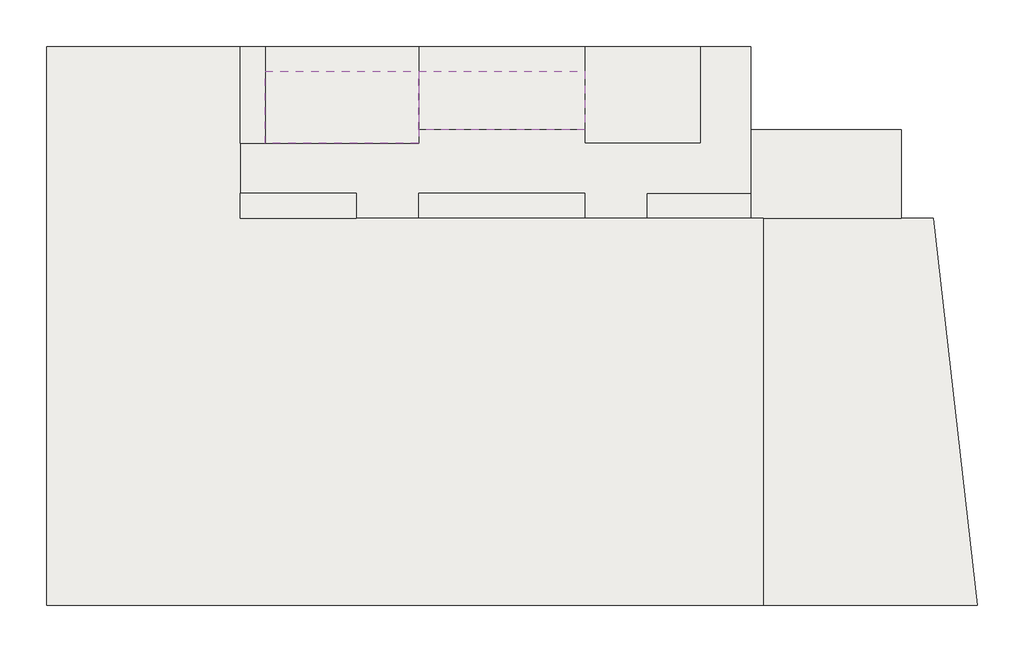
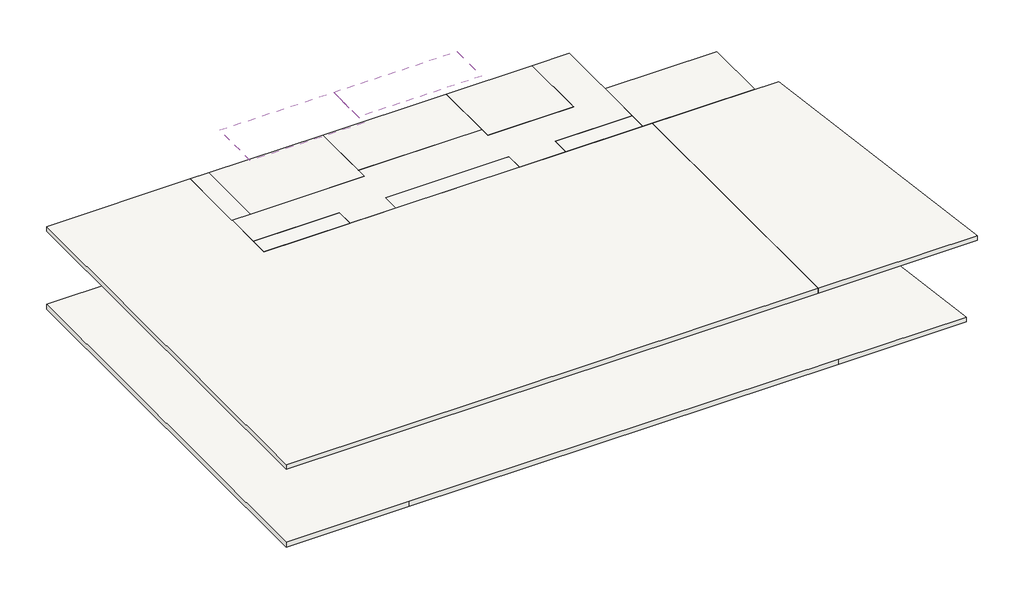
# One storey: 14 roofs.
"""IFC4 building model written with IfcOpenShell, lengths in millimetres."""

from ifc_helpers import new_model, si_unit, frame, origin, place, context, project, spatial, polyline, outline, extrude, element, save

model = new_model("IFC4")

# Units and contexts
model_context = context("Model", 3, world=origin())
ifc_project = project(units=[si_unit("LENGTHUNIT", "METRE", prefix="MILLI")], contexts=[model_context])

# Site, building, storey
site = spatial("IfcSite", under=ifc_project)
building = spatial("IfcBuilding", under=site)
storey = spatial("IfcBuildingStorey", under=building, Name="パラペット天端", Elevation=33200.0)

# Roofs
placement = place(None, origin())
element("IfcRoof", 1, ObjectType="250", at=placement, inside=storey, context=model_context, shape_type="SweptSolid", body=[
    extrude(outline(polyline([(-28845.9784025, 16649.6868987), (-21845.9784025, 16649.6868987), (-21845.9784025, 10449.6868987), (-2945.9784025, 10449.6868987), (-2945.9784025, -3550.3131013), (-28845.9784025, -3550.3131013), (-28845.9784025, 16649.6868987)])), frame((0.0, 0.0, 32350.0), z_axis=(0.0, 0.0, 1.0), x_axis=(1.0, 0.0, 0.0)), (0.0, 0.0, 1.0), 250.0),
])
element("IfcRoof", 2, ObjectType="250", at=placement, inside=storey, context=model_context, shape_type="SweptSolid", body=[
    extrude(outline(polyline([(-21845.9784025, 10449.6868987), (-21845.9784025, 11349.6868987), (-17645.9784025, 11349.6868987), (-17645.9784025, 10449.6868987), (-21845.9784025, 10449.6868987)])), frame((0.0, 0.0, 32350.0), z_axis=(0.0, 0.0, 1.0), x_axis=(1.0, 0.0, 0.0)), (0.0, 0.0, 1.0), 250.0),
])
element("IfcRoof", 3, ObjectType="250", at=placement, inside=storey, context=model_context, shape_type="SweptSolid", body=[
    extrude(outline(polyline([(-21845.9784025, 13149.6868987), (-15395.9784025, 13149.6868987), (-15395.9784025, 13649.6868987), (-9395.9784025, 13649.6868987), (-9395.9784025, 13149.6868987), (-5195.9784025, 13149.6868987), (-5195.9784025, 16649.6868987), (-3395.9784025, 16649.6868987), (-3395.9784025, 11349.6868987), (-7145.9784025, 11349.6868987), (-7145.9784025, 10449.6868987), (-9395.9784025, 10449.6868987), (-9395.9784025, 11349.6868987), (-15395.9784025, 11349.6868987), (-15395.9784025, 10449.6868987), (-17645.9784025, 10449.6868987), (-17645.9784025, 11349.6868987), (-21845.9784025, 11349.6868987), (-21845.9784025, 13149.6868987)])), frame((0.0, 0.0, 32350.0), z_axis=(0.0, 0.0, 1.0), x_axis=(1.0, 0.0, 0.0)), (0.0, 0.0, 1.0), 250.0),
])
element("IfcRoof", 4, ObjectType="250", at=placement, inside=storey, context=model_context, shape_type="SweptSolid", body=[
    extrude(outline(polyline([(-15395.9784025, 10449.6868987), (-15395.9784025, 11349.6868987), (-9395.9784025, 11349.6868987), (-9395.9784025, 10449.6868987), (-15395.9784025, 10449.6868987)])), frame((0.0, 0.0, 32350.0), z_axis=(0.0, 0.0, 1.0), x_axis=(1.0, 0.0, 0.0)), (0.0, 0.0, 1.0), 250.0),
])
element("IfcRoof", 5, ObjectType="250", at=placement, inside=storey, context=model_context, shape_type="SweptSolid", body=[
    extrude(outline(polyline([(-7145.9784025, 10449.6868987), (-7145.9784025, 11349.6868987), (-3395.9784025, 11349.6868987), (-3395.9784025, 10449.6868987), (-7145.9784025, 10449.6868987)])), frame((0.0, 0.0, 32350.0), z_axis=(0.0, 0.0, 1.0), x_axis=(1.0, 0.0, 0.0)), (0.0, 0.0, 1.0), 250.0),
])
element("IfcRoof", 6, ObjectType="250", at=placement, inside=storey, context=model_context, shape_type="SweptSolid", body=[
    extrude(outline(polyline([(-9395.9784025, 13149.6868987), (-9395.9784025, 16649.6868987), (-5195.9784025, 16649.6868987), (-5195.9784025, 13149.6868987), (-9395.9784025, 13149.6868987)])), frame((0.0, 0.0, 32350.0), z_axis=(0.0, 0.0, 1.0), x_axis=(1.0, 0.0, 0.0)), (0.0, 0.0, 1.0), 250.0),
])
element("IfcRoof", 7, ObjectType="250", at=placement, inside=storey, context=model_context, shape_type="SweptSolid", body=[
    extrude(outline(polyline([(-3395.9784025, 10449.6868987), (-3395.9784025, 13649.6868987), (2054.0215975, 13649.6868987), (2054.0215975, 10449.6868987), (-3395.9784025, 10449.6868987)])), frame((0.0, 0.0, 32350.0), z_axis=(0.0, 0.0, 1.0), x_axis=(1.0, 0.0, 0.0)), (0.0, 0.0, 1.0), 250.0),
])
element("IfcRoof", 8, ObjectType="250", at=placement, inside=storey, context=model_context, shape_type="SweptSolid", body=[
    extrude(outline(polyline([(-15395.9784025, 13649.6868987), (-15395.9784025, 15749.6868987), (-9395.9784025, 15749.6868987), (-9395.9784025, 13649.6868987), (-15395.9784025, 13649.6868987)])), frame((0.0, 0.0, 35350.0), z_axis=(0.0, 0.0, 1.0), x_axis=(1.0, 0.0, 0.0)), (0.0, 0.0, 1.0), 250.0),
])
element("IfcRoof", 9, ObjectType="250", at=placement, inside=storey, context=model_context, shape_type="SweptSolid", body=[
    extrude(outline(polyline([(-20945.9784025, 13149.6868987), (-20945.9784025, 15749.6868987), (-15395.9784025, 15749.6868987), (-15395.9784025, 13149.6868987), (-20945.9784025, 13149.6868987)])), frame((0.0, 0.0, 35350.0), z_axis=(0.0, 0.0, 1.0), x_axis=(1.0, 0.0, 0.0)), (0.0, 0.0, 1.0), 250.0),
])
element("IfcRoof", 10, ObjectType="250", at=placement, inside=storey, context=model_context, shape_type="SweptSolid", body=[
    extrude(outline(polyline([(-21845.9784025, 13149.6868987), (-21845.9784025, 16649.6868987), (-20945.9784025, 16649.6868987), (-20945.9784025, 13149.6868987), (-21845.9784025, 13149.6868987)])), frame((0.0, 0.0, 32350.0), z_axis=(0.0, 0.0, 1.0), x_axis=(1.0, 0.0, 0.0)), (0.0, 0.0, 1.0), 250.0),
])
element("IfcRoof", 11, ObjectType="250", at=placement, inside=storey, context=model_context, shape_type="SweptSolid", body=[
    extrude(outline(polyline([(-15395.9784025, 13649.6868987), (-15395.9784025, 16649.6868987), (-9395.9784025, 16649.6868987), (-9395.9784025, 13649.6868987), (-15395.9784025, 13649.6868987)])), frame((0.0, 0.0, 32350.0), z_axis=(0.0, 0.0, 1.0), x_axis=(1.0, 0.0, 0.0)), (0.0, 0.0, 1.0), 250.0),
])
element("IfcRoof", 12, ObjectType="250", at=placement, inside=storey, context=model_context, shape_type="SweptSolid", body=[
    extrude(outline(polyline([(-20945.9784025, 13149.6868987), (-20945.9784025, 16649.6868987), (-15395.9784025, 16649.6868987), (-15395.9784025, 13149.6868987), (-20945.9784025, 13149.6868987)])), frame((0.0, 0.0, 32350.0), z_axis=(0.0, 0.0, 1.0), x_axis=(1.0, 0.0, 0.0)), (0.0, 0.0, 1.0), 250.0),
])
element("IfcRoof", 13, ObjectType="250", at=placement, inside=storey, context=model_context, shape_type="SweptSolid", body=[
    extrude(outline(polyline([(-1945.9784025, -3550.3131013), (-22845.9784025, -3550.3131013), (-28845.9784025, -3550.3131013), (-28845.9784025, 16649.6868987), (-21845.9784025, 16649.6868987), (-21845.9784025, 10449.6868987), (2661.9595949, 10449.6868987), (4261.9595949, -3550.3131013), (-1945.9784025, -3550.3131013)])), frame((0.0, 0.0, 28350.0), z_axis=(0.0, 0.0, 1.0), x_axis=(1.0, 0.0, 0.0)), (0.0, 0.0, 1.0), 250.0),
])
element("IfcRoof", 14, ObjectType="250", at=placement, inside=storey, context=model_context, shape_type="SweptSolid", body=[
    extrude(outline(polyline([(4805.7464265, -3550.3131013), (-2945.9784025, -3550.3131013), (-2945.9784025, 10449.6868987), (3205.7464265, 10449.6868987), (4805.7464265, -3550.3131013)])), frame((0.0, 0.0, 32350.0), z_axis=(0.0, 0.0, 1.0), x_axis=(1.0, 0.0, 0.0)), (0.0, 0.0, 1.0), 250.0),
])

save(model, "model.ifc")
